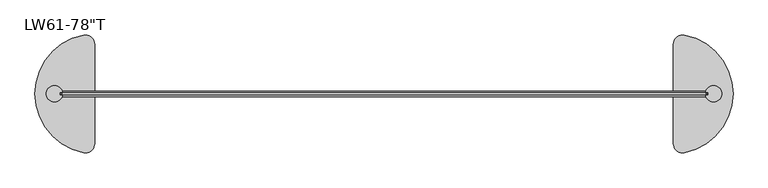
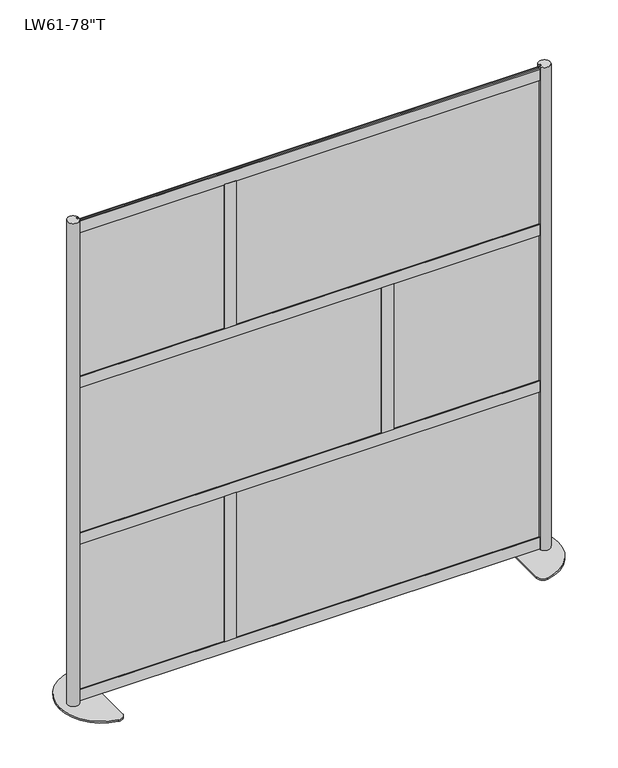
"""IFC4 building model written with IfcOpenShell, lengths in millimetres: furniture geometry."""

from ifc_helpers import new_model, si_unit, point, frame, frame_2d, origin, origin_with_axes, place, context, project, spatial, polyline, circle_curve, trimmed, segment, composite_curve, outline, extrude, source, transform, mapped, element, save


def furniture_0cb873e3(model_context):
    return source(origin(), model_context, "Body", "SweptSolid", [
        extrude(outline(polyline([(289.233901, -1.531862), (-899.803599, -1.531862), (-899.803599, 1.643138), (289.233901, 1.643138), (289.233901, -1.531862)])), frame((0.0, 0.0, 689.2170135), z_axis=(0.0, 0.0, 1.0), x_axis=(1.0, 0.0, 0.0)), (0.0, 0.0, 1.0), 608.965),
        extrude(outline(polyline([(893.3285387, -1.531862), (-295.7089613, -1.531862), (-295.7089613, 1.643138), (893.3285387, 1.643138), (893.3285387, -1.531862)])), frame((0.0, 0.0, 1324.5091135), z_axis=(0.0, 0.0, 1.0), x_axis=(1.0, 0.0, 0.0)), (0.0, 0.0, 1.0), 608.965),
        extrude(outline(polyline([(-897.2933616, 1.5875), (-319.4433608, 1.5875), (-319.4435344, -1.5875), (-897.2935353, -1.5875), (-897.2933616, 1.5875)])), frame((0.0, 0.0, 1324.2670292), z_axis=(0.0, 0.0, 1.0), x_axis=(1.0, 0.0, 0.0)), (0.0, 0.0, 1.0), 608.965),
        extrude(outline(polyline([(-897.2933616, 1.5875), (-319.4433608, 1.5875), (-319.4435344, -1.5875), (-897.2935353, -1.5875), (-897.2933616, 1.5875)])), frame((0.0, 0.0, 49.2633), z_axis=(0.0, 0.0, 1.0), x_axis=(1.0, 0.0, 0.0)), (0.0, 0.0, 1.0), 608.965),
        extrude(outline(polyline([(316.9532876, 1.5875), (894.8032884, 1.5875), (894.8031147, -1.5875), (316.9531139, -1.5875), (316.9532876, 1.5875)])), frame((0.0, 0.0, 689.2671), z_axis=(0.0, 0.0, 1.0), x_axis=(1.0, 0.0, 0.0)), (0.0, 0.0, 1.0), 608.965),
        extrude(outline(polyline([(893.3285387, -1.531862), (-295.7089613, -1.531862), (-295.7089613, 1.643138), (893.3285387, 1.643138), (893.3285387, -1.531862)])), frame((0.0, 0.0, 49.2132135), z_axis=(0.0, 0.0, 1.0), x_axis=(1.0, 0.0, 0.0)), (0.0, 0.0, 1.0), 608.965),
        extrude(outline(polyline([(323.8118123, 3.556), (316.6998123, 3.556), (316.6998123, -3.556), (323.8118123, -3.556), (323.8118123, -7.6327), (278.5490123, -7.6327), (278.5490123, -3.556), (285.6610123, -3.556), (285.6610123, 3.556), (278.5490123, 3.556), (278.5490123, 7.6327), (323.8118123, 7.6327), (323.8118123, 3.556)])), frame((0.0, 0.0, 696.3791), z_axis=(0.0, 0.0, 1.0), x_axis=(1.0, 0.0, 0.0)), (0.0, 0.0, 1.0), 594.741),
        extrude(outline(polyline([(-329.3680623, 3.556), (-329.3680623, 7.6327), (-284.1052623, 7.6327), (-284.1052623, 3.556), (-291.2172623, 3.556), (-291.2172623, -3.556), (-284.1052623, -3.556), (-284.1052623, -7.6327), (-329.3680623, -7.6327), (-329.3680623, -3.556), (-322.2560623, -3.556), (-322.2560623, 3.556), (-329.3680623, 3.556)])), frame((0.0, 0.0, 1336.3829), z_axis=(0.0, 0.0, 1.0), x_axis=(1.0, 0.0, 0.0)), (0.0, 0.0, 1.0), 590.0293),
        extrude(outline(polyline([(-329.3680623, 3.556), (-329.3680623, 7.6327), (-284.1052623, 7.6327), (-284.1052623, 3.556), (-291.2172623, 3.556), (-291.2172623, -3.556), (-284.1052623, -3.556), (-284.1052623, -7.6327), (-329.3680623, -7.6327), (-329.3680623, -3.556), (-322.2560623, -3.556), (-322.2560623, 3.556), (-329.3680623, 3.556)])), frame((0.0, 0.0, 56.3753), z_axis=(0.0, 0.0, 1.0), x_axis=(1.0, 0.0, 0.0)), (0.0, 0.0, 1.0), 594.741),
        extrude(outline(polyline([(3.556, 651.1163), (3.556, 658.2283), (-3.556, 658.2283), (-3.556, 651.1163), (-7.6327, 651.1163), (-7.6327, 696.3791), (-3.556, 696.3791), (-3.556, 689.2671), (3.556, 689.2671), (3.556, 696.3791), (7.6327, 696.3791), (7.6327, 651.1163), (3.556, 651.1163)])), frame((-889.7874, 0.0, 0.0), z_axis=(1.0, 0.0, 0.0), x_axis=(0.0, 1.0, 0.0)), (0.0, 0.0, 1.0), 1779.5748),
        extrude(outline(polyline([(3.556, 1291.1201), (3.556, 1298.2321), (-3.556, 1298.2321), (-3.556, 1291.1201), (-7.6327, 1291.1201), (-7.6327, 1336.3829), (-3.556, 1336.3829), (-3.556, 1329.2709), (3.556, 1329.2709), (3.556, 1336.3829), (7.6327, 1336.3829), (7.6327, 1291.1201), (3.556, 1291.1201)])), frame((-889.7874, 0.0, 0.0), z_axis=(1.0, 0.0, 0.0), x_axis=(0.0, 1.0, 0.0)), (0.0, 0.0, 1.0), 1779.5748),
        extrude(outline(polyline([(3.556, 11.1125), (3.556, 18.2245), (-3.556, 18.2245), (-3.556, 11.1125), (-7.6327, 11.1125), (-7.6327, 56.3753), (-3.556, 56.3753), (-3.556, 49.2633), (3.556, 49.2633), (3.556, 56.3753), (7.6327, 56.3753), (7.6327, 11.1125), (3.556, 11.1125)])), frame((-889.8636, 0.0, 0.0), z_axis=(1.0, 0.0, 0.0), x_axis=(0.0, 1.0, 0.0)), (0.0, 0.0, 1.0), 1779.7272),
        extrude(outline(polyline([(3.556, 1926.1200292), (3.556, 1933.2320292), (-3.556, 1933.2320292), (-3.556, 1926.1200292), (-7.6327, 1926.1200292), (-7.6327, 1971.3828292), (-3.556, 1971.3828292), (-3.556, 1964.2708292), (3.556, 1964.2708292), (3.556, 1971.3828292), (7.6327, 1971.3828292), (7.6327, 1926.1200292), (3.556, 1926.1200292)])), frame((-889.8636, 0.0, 0.0), z_axis=(1.0, 0.0, 0.0), x_axis=(0.0, 1.0, 0.0)), (0.0, 0.0, 1.0), 1779.7272),
        extrude(outline(composite_curve([segment(polyline([(889.8636, -7.7568093), (889.8636, -3.556), (896.9756, -3.556), (896.9756, 3.556), (889.8636, 3.556), (889.8636, 7.7568093)]), True, "CONTINUOUS"), segment(trimmed(circle_curve(frame_2d((910.9665837, 0.0)), 22.4834163), [point((889.8636, 7.7568093))], [point((889.8636, -7.7568093))], False, "CARTESIAN"), True, "CONTINUOUS")], self_intersect=False)), frame((0.0, 0.0, 6.35), z_axis=(0.0, 0.0, 1.0), x_axis=(1.0, 0.0, 0.0)), (0.0, 0.0, 1.0), 1974.85),
        extrude(outline(composite_curve([segment(polyline([(800.1, -137.3715036), (800.1, 137.3715036)]), True, "CONTINUOUS"), segment(trimmed(circle_curve(frame_2d((825.5, 137.3715036)), 25.4), [point((800.1, 137.3715036))], [point((830.1181818, 162.3481406))], False, "CARTESIAN"), True, "CONTINUOUS"), segment(trimmed(circle_curve(frame_2d((800.1, 0.0)), 165.1), [point((830.1181818, 162.3481406))], [point((965.2, 0.0))], False, "CARTESIAN"), True, "CONTINUOUS"), segment(trimmed(circle_curve(frame_2d((800.1, 0.0)), 165.1), [point((965.2, 0.0))], [point((830.1181818, -162.3481406))], False, "CARTESIAN"), True, "CONTINUOUS"), segment(trimmed(circle_curve(frame_2d((825.5, -137.3715036)), 25.4), [point((830.1181818, -162.3481406))], [point((800.1, -137.3715036))], False, "CARTESIAN"), True, "CONTINUOUS")], self_intersect=False)), origin_with_axes(), (0.0, 0.0, 1.0), 6.35),
        extrude(outline(composite_curve([segment(trimmed(circle_curve(frame_2d((-910.9665837, 0.0)), 22.4834163), [point((-889.8636, -7.7568093))], [point((-889.8636, 7.7568093))], False, "CARTESIAN"), True, "CONTINUOUS"), segment(polyline([(-889.8636, 7.7568093), (-889.8636, 3.556), (-896.9756, 3.556), (-896.9756, -3.556), (-889.8636, -3.556), (-889.8636, -7.7568093)]), True, "CONTINUOUS")], self_intersect=False)), frame((0.0, 0.0, 6.35), z_axis=(0.0, 0.0, 1.0), x_axis=(1.0, 0.0, 0.0)), (0.0, 0.0, 1.0), 1974.85),
        extrude(outline(composite_curve([segment(trimmed(circle_curve(frame_2d((-825.5, -137.3715036)), 25.4), [point((-800.1, -137.3715036))], [point((-830.1181818, -162.3481406))], False, "CARTESIAN"), True, "CONTINUOUS"), segment(trimmed(circle_curve(frame_2d((-800.1, 0.0)), 165.1), [point((-830.1181818, -162.3481406))], [point((-965.2, 0.0))], False, "CARTESIAN"), True, "CONTINUOUS"), segment(trimmed(circle_curve(frame_2d((-800.1, 0.0)), 165.1), [point((-965.2, 0.0))], [point((-830.1181818, 162.3481406))], False, "CARTESIAN"), True, "CONTINUOUS"), segment(trimmed(circle_curve(frame_2d((-825.5, 137.3715036)), 25.4), [point((-830.1181818, 162.3481406))], [point((-800.1, 137.3715036))], False, "CARTESIAN"), True, "CONTINUOUS"), segment(polyline([(-800.1, 137.3715036), (-800.1, -137.3715036)]), True, "CONTINUOUS")], self_intersect=False)), origin_with_axes(), (0.0, 0.0, 1.0), 6.35),
    ])


if __name__ == "__main__":
    model = new_model("IFC4")
    model_context = context("Model", 3, world=origin())
    ifc_project = project(units=[si_unit("LENGTHUNIT", "METRE", prefix="MILLI")], contexts=[model_context])
    site = spatial("IfcSite", under=ifc_project)
    building = spatial("IfcBuilding", under=site)
    placement = place(None, origin())
    furniture_shape = furniture_0cb873e3(model_context)
    element("IfcFurniture", 1, ObjectType="Loft_Wall-Framewall-76 : LW61-78\"T", at=placement, inside=building, context=model_context, shape_type="MappedRepresentation", body=[
        mapped(furniture_shape, transform((0.0, 0.0, 0.0), x_axis=(1.0, 0.0, 0.0), y_axis=(0.0, 1.0, 0.0), z_axis=(0.0, 0.0, 1.0))),
    ])
    save(model, "model.ifc")
